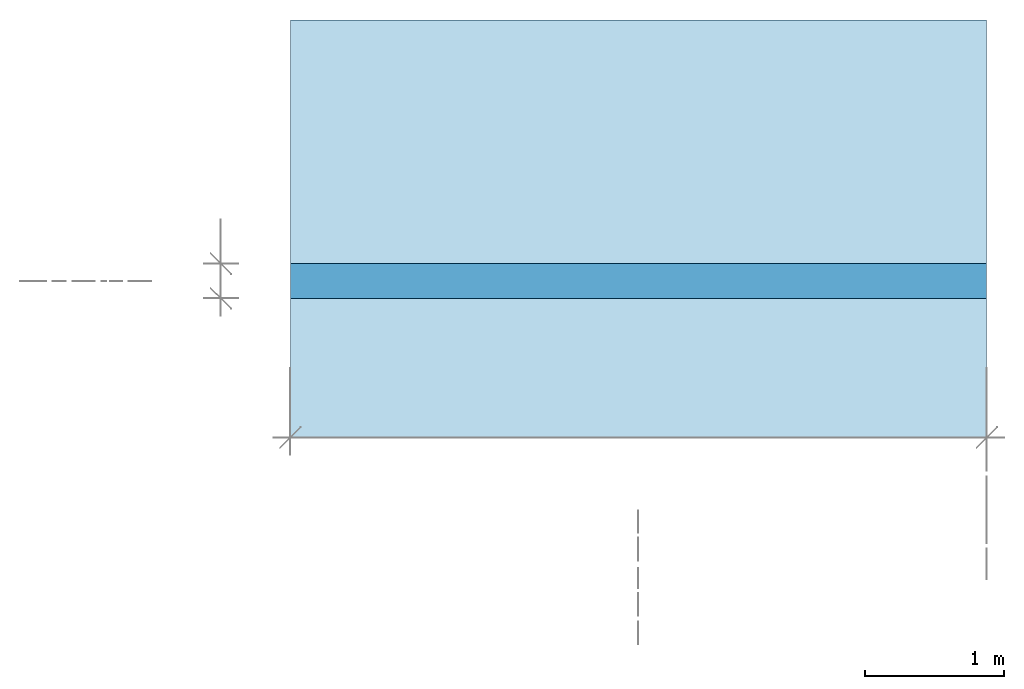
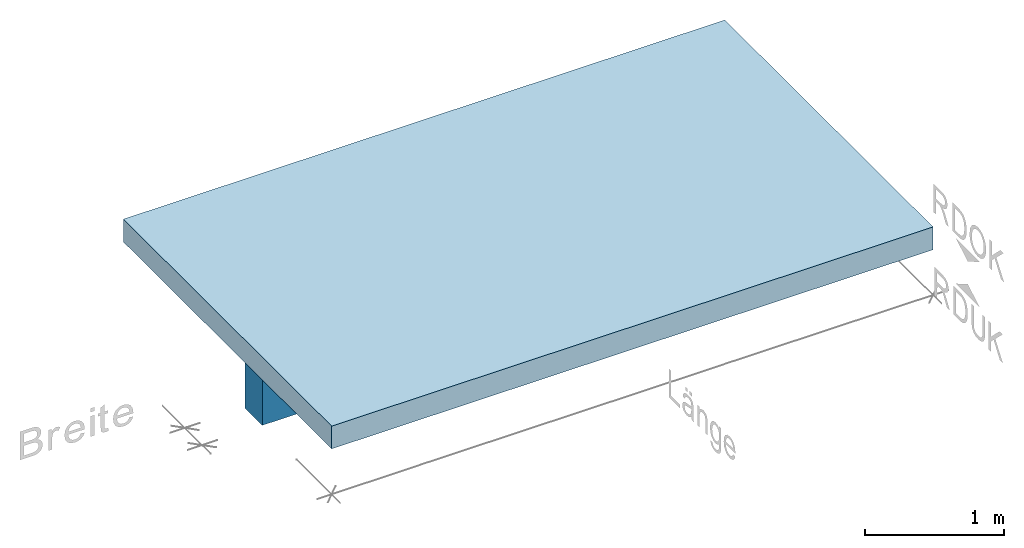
# One storey, part 1 of 2: 1 beam, 1 slab.
"""IFC4 building model written with IfcOpenShell, lengths in metres."""

import ifcopenshell
import ifcopenshell.guid

model = None  # the IFC model being written
_history = None  # IfcOwnerHistory: only IFC2X3 demands one
_inside = {}  # id of a spatial element -> (the spatial element, [elements in it])
_under = {}  # id of a project, library or spatial element -> (it, [spatial elements below it])
_declared = {}  # id of a project -> (the project, [libraries it declares])
_typed = {}  # id of a type object -> (the type object, [elements of that type])
_made_of = {}  # id of a material, layer set ... -> (it, [elements and type objects made of it])


def new_model(schema):
    """Start an empty IFC model of exactly this schema.

    Asked for "IFC4X3", IfcOpenShell would pick the latest addendum, in which some entities
    have other attributes; the version numbers below select the first issue.
    IFC2X3 requires an IfcOwnerHistory on every rooted entity: one is made here for all.
    """
    global model, _history
    if schema == "IFC4X3":
        model = ifcopenshell.file(schema_version=(4, 3, 0, 0))
    else:
        model = ifcopenshell.file(schema=schema)
    _inside.clear()
    _under.clear()
    _declared.clear()
    _typed.clear()
    _made_of.clear()
    _history = None
    if model.schema == "IFC2X3":
        org = make("IfcOrganization", Name="unknown")
        user = make(
            "IfcPersonAndOrganization",
            ThePerson=make("IfcPerson", FamilyName="unknown"),
            TheOrganization=org,
        )
        app = make(
            "IfcApplication",
            ApplicationDeveloper=org,
            Version="unknown",
            ApplicationFullName="unknown",
            ApplicationIdentifier="unknown",
        )
        _history = make(
            "IfcOwnerHistory",
            OwningUser=user,
            OwningApplication=app,
            ChangeAction="ADDED",
            CreationDate=0,
        )
    return model


def make(cls, **values):
    """One entity of the class cls with the attributes given. An attribute that is None is left unset."""
    return model.create_entity(
        cls, **{name: value for name, value in values.items() if value is not None}
    )


def entity(cls, *values):
    """Any entity or typed value of the class cls, its attributes in the order of the schema. None: left unset."""
    e = model.create_entity(cls)
    for i, value in enumerate(values):
        if value is not None:
            e[i] = value
    return e


def rooted(cls, **values):
    """An entity with a GlobalId (a new one), such as an element, a storey or a relation."""
    return make(cls, GlobalId=ifcopenshell.guid.new(), OwnerHistory=_history, **values)


def si_unit(unit_type, name, prefix=None):
    """IfcSIUnit, for example si_unit("LENGTHUNIT", "METRE", prefix="MILLI")."""
    return make("IfcSIUnit", UnitType=unit_type, Prefix=prefix, Name=name)


def converted_unit(unit_type, name, factor, base, dimensions=None, offset=None):
    """IfcConversionBasedUnit, such as the inch: factor (a typed value) times the base unit."""
    return make(
        "IfcConversionBasedUnit"
        if offset is None
        else "IfcConversionBasedUnitWithOffset",
        ConversionOffset=offset,
        Dimensions=None
        if dimensions is None
        else entity("IfcDimensionalExponents", *dimensions),
        UnitType=unit_type,
        Name=name,
        ConversionFactor=make(
            "IfcMeasureWithUnit", ValueComponent=factor, UnitComponent=base
        ),
    )


def derived_unit(unit_type, elements):
    """IfcDerivedUnit: a product of units, each with its exponent."""
    return make(
        "IfcDerivedUnit",
        Elements=[
            make("IfcDerivedUnitElement", Unit=unit, Exponent=power)
            for unit, power in elements
        ],
        UnitType=unit_type,
    )


def assignment(units):
    """IfcUnitAssignment: the units of a project."""
    return None if units is None else make("IfcUnitAssignment", Units=units)


def point(xyz):
    """IfcCartesianPoint."""
    return None if xyz is None else make("IfcCartesianPoint", Coordinates=xyz)


def direction(xyz):
    """IfcDirection."""
    return None if xyz is None else make("IfcDirection", DirectionRatios=xyz)


def frame(location, z_axis=None, x_axis=None):
    """IfcAxis2Placement3D, a coordinate frame: its origin and axes. An axis left out is left unset."""
    return make(
        "IfcAxis2Placement3D",
        Location=point(location),
        Axis=direction(z_axis),
        RefDirection=direction(x_axis),
    )


def frame_2d(location, x_axis=None):
    """IfcAxis2Placement2D, a coordinate frame in the plane: its origin and x axis."""
    return make(
        "IfcAxis2Placement2D", Location=point(location), RefDirection=direction(x_axis)
    )


def origin():
    """The frame at (0, 0, 0) with its axes left unset."""
    return frame((0.0, 0.0, 0.0))


def place(relative_to, where):
    """IfcLocalPlacement: puts the frame where relative to a parent placement (None: the world)."""
    return make(
        "IfcLocalPlacement", PlacementRelTo=relative_to, RelativePlacement=where
    )


def context(
    kind, dimensions, precision=None, world=None, true_north=None, identifier=None
):
    """IfcGeometricRepresentationContext, for example the 3D "Model" context."""
    return make(
        "IfcGeometricRepresentationContext",
        ContextIdentifier=identifier,
        ContextType=kind,
        CoordinateSpaceDimension=dimensions,
        Precision=precision,
        WorldCoordinateSystem=world,
        TrueNorth=true_north,
    )


def subcontext(parent, identifier, kind, view, scale=None):
    """IfcGeometricRepresentationSubContext, for example "Body" below "Model"."""
    return make(
        "IfcGeometricRepresentationSubContext",
        ContextIdentifier=identifier,
        ContextType=kind,
        ParentContext=parent,
        TargetScale=scale,
        TargetView=view,
    )


def project(units=None, contexts=None):
    """IfcProject with its units and contexts."""
    return rooted(
        "IfcProject",
        Name="project",
        RepresentationContexts=contexts,
        UnitsInContext=assignment(units),
    )


def spatial(cls, under=None, at=None, **own):
    """A site, building, storey or space (cls), placed at a placement, below another one or the project."""
    s = rooted(cls, ObjectPlacement=at, **own)
    if under is not None:
        _under.setdefault(under.id(), (under, []))[1].append(s)
    return s


def profile(cls, at=None, kind="AREA", **sizes):
    """A parametric profile (cls). Its sizes go by their IFC names, for example OverallWidth=200.0."""
    return make(cls, ProfileType=kind, Position=at, **sizes)


def rectangle(**sizes):
    """IfcRectangleProfileDef."""
    return profile("IfcRectangleProfileDef", **sizes)


def extrude(swept, where, along, depth):
    """IfcExtrudedAreaSolid: the profile swept, set in the frame where, extruded along a direction by depth."""
    return make(
        "IfcExtrudedAreaSolid",
        SweptArea=swept,
        Position=where,
        ExtrudedDirection=direction(along),
        Depth=depth,
    )


def shape(context_of_items, identifier, shape_type, items):
    """IfcShapeRepresentation: the items that make up one representation, for example the "Body"."""
    return make(
        "IfcShapeRepresentation",
        ContextOfItems=context_of_items,
        RepresentationIdentifier=identifier,
        RepresentationType=shape_type,
        Items=items,
    )


def material(Name=None, Category=None):
    """IfcMaterial."""
    return make("IfcMaterial", Name=Name, Category=Category)


def made_of(thing, what):
    """Note that an element or type object is made of a material, layer set ...; save() writes the relation."""
    if what is not None:
        _made_of.setdefault(what.id(), (what, []))[1].append(thing)
    return thing


def element(
    cls,
    number,
    at=None,
    inside=None,
    cuts=None,
    type_object=None,
    material=None,
    context=None,
    identifier="Body",
    shape_type=None,
    held_by="IfcProductDefinitionShape",
    body=None,
    shapes=None,
    **own,
):
    """One element of the class cls, such as IfcWall. Its Tag is "e" and its number.

    at: its placement. inside: the storey or other place that contains it. cuts: it is an
    opening in that element (IfcRelVoidsElement). A single representation is given by context,
    identifier, shape_type and body (its items); several are given by shapes. held_by: the class
    of the entity that holds the representations. save() writes the other relations.
    """
    e = rooted(cls, Tag="e%d" % number, ObjectPlacement=at, **own)
    if body is not None:
        shapes = [shape(context, identifier, shape_type, body)]
    if shapes is not None:
        e.Representation = make(held_by, Representations=shapes)
    if inside is not None:
        _inside.setdefault(inside.id(), (inside, []))[1].append(e)
    if cuts is not None:
        rooted(
            "IfcRelVoidsElement", RelatingBuildingElement=cuts, RelatedOpeningElement=e
        )
    if type_object is not None:
        _typed.setdefault(type_object.id(), (type_object, []))[1].append(e)
    return made_of(e, material)


def aggregate(whole, parts):
    """IfcRelAggregates: a whole, such as a stair, and the parts it consists of."""
    return rooted("IfcRelAggregates", RelatingObject=whole, RelatedObjects=parts)


def save(model, path):
    """Write the relations noted so far, then the file.

    IfcRelAggregates (storeys below a building ...), IfcRelContainedInSpatialStructure (elements
    in a storey), IfcRelDefinesByType, IfcRelAssociatesMaterial and IfcRelDeclares: one each for
    every whole, place, type object, material and project.
    """
    for whole, parts in _under.values():
        aggregate(whole, parts)
    for where, things in _inside.values():
        rooted(
            "IfcRelContainedInSpatialStructure",
            RelatedElements=things,
            RelatingStructure=where,
        )
    for kind, things in _typed.values():
        rooted("IfcRelDefinesByType", RelatedObjects=things, RelatingType=kind)
    for what, things in _made_of.values():
        rooted("IfcRelAssociatesMaterial", RelatedObjects=things, RelatingMaterial=what)
    for by, libraries in _declared.values():
        rooted("IfcRelDeclares", RelatingContext=by, RelatedDefinitions=libraries)
    model.write(path)


model = new_model("IFC4")

# Units and contexts
model_context = context("Model", 3, precision=1e-05, world=origin())
body_context = subcontext(model_context, "Body", "Model", "MODEL_VIEW")
ifc_project = project(units=[si_unit("LENGTHUNIT", "METRE"), si_unit("AREAUNIT", "SQUARE_METRE"), si_unit("VOLUMEUNIT", "CUBIC_METRE"), si_unit("MASSUNIT", "GRAM", prefix="KILO"), converted_unit("PLANEANGLEUNIT", "DEGREE", entity("IfcPlaneAngleMeasure", 0.0174532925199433), si_unit("PLANEANGLEUNIT", "RADIAN"), dimensions=[0, 0, 0, 0, 0, 0, 0]), derived_unit("THERMALTRANSMITTANCEUNIT", [(si_unit("POWERUNIT", "WATT"), 1), (si_unit("THERMODYNAMICTEMPERATUREUNIT", "KELVIN"), -1), (si_unit("LENGTHUNIT", "METRE"), -2)]), derived_unit("VOLUMETRICFLOWRATEUNIT", [(si_unit("LENGTHUNIT", "METRE"), 3), (converted_unit("TIMEUNIT", "hour", entity("IfcTimeMeasure", 3600.0), si_unit("TIMEUNIT", "SECOND"), dimensions=[0, 0, 1, 0, 0, 0, 0]), -1), (si_unit("LENGTHUNIT", "METRE"), -1)])], contexts=[model_context])

# Site, building, storey
site_placement = place(None, origin())
site = spatial("IfcSite", under=ifc_project, at=site_placement, Name="Liegenschaft", CompositionType="ELEMENT")
building_placement = place(site_placement, origin())
building = spatial("IfcBuilding", under=site, at=building_placement, Name="Gebäude", CompositionType="ELEMENT")
storey_placement = place(building_placement, origin())
storey = spatial("IfcBuildingStorey", under=building, at=storey_placement, Name="Geschoss 01", CompositionType="ELEMENT", Elevation=0.0)

# Beam
ifc_material = material(Name="C25/30")
beam_placement = place(storey_placement, frame((90.2953071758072, -1.00408619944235, -0.6)))
element("IfcBeam", 1, at=beam_placement, inside=storey, material=ifc_material, Name="WA_01", PredefinedType="NOTDEFINED", context=body_context, shape_type="SweptSolid", body=[
    extrude(rectangle(XDim=0.25, YDim=0.4, at=frame_2d((0.125, 0.2), x_axis=(1.0, 0.0))), frame((0.0, 0.0, 0.0), z_axis=(1.0, 0.0, 0.0), x_axis=(0.0, 1.0, 0.0)), (0.0, 0.0, 1.0), 5.0),
])

# Slab
slab_placement = place(storey_placement, frame((90.2953071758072, -2.00408619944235, -0.2)))
element("IfcSlab", 2, at=slab_placement, inside=storey, PredefinedType="FLOOR", context=body_context, shape_type="SweptSolid", body=[
    extrude(rectangle(XDim=3.0, YDim=5.0, at=frame_2d((2.5, -1.5), x_axis=(0.0, -1.0))), frame((0.0, 3.0, 0.0), z_axis=(0.0, 0.0, 1.0), x_axis=(1.0, 0.0, 0.0)), (0.0, 0.0, 1.0), 0.2),
])

save(model, "model.ifc")
